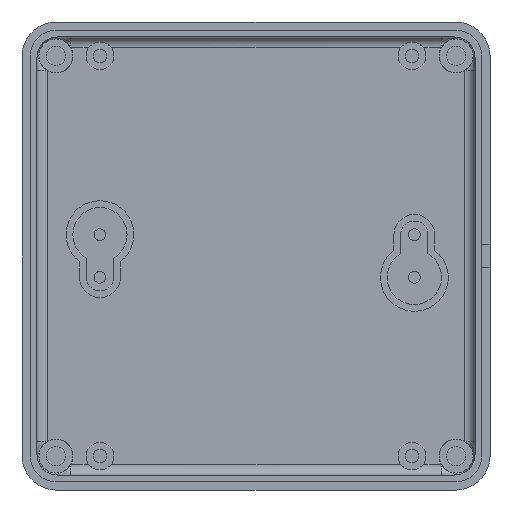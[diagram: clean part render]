
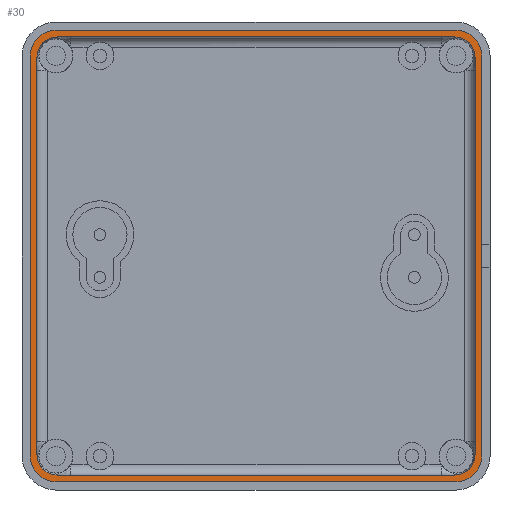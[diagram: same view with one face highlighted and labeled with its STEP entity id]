
A CAD part, front view. The second image highlights one B-rep face of the part: STEP entity #30.
In plain terms, the highlighted planar face has unit normal (0, -1, 0).
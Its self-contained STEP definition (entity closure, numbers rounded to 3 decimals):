
#23 = DIRECTION ( 'NONE',  ( 0., 0., -1. ) ) ;
#28 = EDGE_CURVE ( 'NONE', #1350, #135, #3203, .T. ) ;
#30 = ADVANCED_FACE ( 'NONE', ( #1282, #2259 ), #86, .T. ) ;
#37 = DIRECTION ( 'NONE',  ( 0., -1., 0. ) ) ;
#70 = CARTESIAN_POINT ( 'NONE',  ( -29.3, 0., 32.3 ) ) ;
#83 = ORIENTED_EDGE ( 'NONE', *, *, #3437, .T. ) ;
#86 = PLANE ( 'NONE',  #474 ) ;
#90 = DIRECTION ( 'NONE',  ( -1., 0., 0. ) ) ;
#115 = DIRECTION ( 'NONE',  ( 0., 0., 1. ) ) ;
#135 = VERTEX_POINT ( 'NONE', #3301 ) ;
#153 = EDGE_CURVE ( 'NONE', #2654, #2381, #4497, .T. ) ;
#163 = CARTESIAN_POINT ( 'NONE',  ( -29.5, 0., 29.5 ) ) ;
#251 = CARTESIAN_POINT ( 'NONE',  ( 32.3, 0., 29.3 ) ) ;
#254 = LINE ( 'NONE', #70, #3648 ) ;
#257 = AXIS2_PLACEMENT_3D ( 'NONE', #2780, #2423, #1700 ) ;
#268 = VERTEX_POINT ( 'NONE', #1545 ) ;
#301 = CARTESIAN_POINT ( 'NONE',  ( -32.3, 0., 29.3 ) ) ;
#333 = EDGE_CURVE ( 'NONE', #2762, #1350, #2200, .T. ) ;
#361 = DIRECTION ( 'NONE',  ( 0., 0., -1. ) ) ;
#392 = CARTESIAN_POINT ( 'NONE',  ( 29.3, 0., -29.3 ) ) ;
#434 = VECTOR ( 'NONE', #115, 1000. ) ;
#453 = ORIENTED_EDGE ( 'NONE', *, *, #28, .F. ) ;
#474 = AXIS2_PLACEMENT_3D ( 'NONE', #163, #37, #23 ) ;
#491 = AXIS2_PLACEMENT_3D ( 'NONE', #851, #839, #832 ) ;
#492 = EDGE_CURVE ( 'NONE', #4364, #4538, #2686, .T. ) ;
#593 = CARTESIAN_POINT ( 'NONE',  ( 33.3, 0., 29.45 ) ) ;
#613 = CARTESIAN_POINT ( 'NONE',  ( -29.45, 0., -33.3 ) ) ;
#784 = EDGE_CURVE ( 'NONE', #831, #2654, #3683, .T. ) ;
#831 = VERTEX_POINT ( 'NONE', #1554 ) ;
#832 = DIRECTION ( 'NONE',  ( 0., 0., -1. ) ) ;
#839 = DIRECTION ( 'NONE',  ( 0., -1., 0. ) ) ;
#851 = CARTESIAN_POINT ( 'NONE',  ( -29.45, 0., 29.45 ) ) ;
#923 = CARTESIAN_POINT ( 'NONE',  ( -29.3, 0., 32.3 ) ) ;
#945 = ORIENTED_EDGE ( 'NONE', *, *, #3295, .T. ) ;
#981 = CARTESIAN_POINT ( 'NONE',  ( 33.3, 0., -29.45 ) ) ;
#1051 = DIRECTION ( 'NONE',  ( 0., 0., -1. ) ) ;
#1061 = CARTESIAN_POINT ( 'NONE',  ( -29.3, 0., -29.3 ) ) ;
#1078 = DIRECTION ( 'NONE',  ( 0., -1., 0. ) ) ;
#1110 = DIRECTION ( 'NONE',  ( 0., 0., 1. ) ) ;
#1129 = AXIS2_PLACEMENT_3D ( 'NONE', #392, #1899, #361 ) ;
#1192 = EDGE_CURVE ( 'NONE', #135, #1648, #4011, .T. ) ;
#1200 = AXIS2_PLACEMENT_3D ( 'NONE', #1833, #1829, #1817 ) ;
#1282 = FACE_BOUND ( 'NONE', #4505, .T. ) ;
#1333 = LINE ( 'NONE', #2744, #3255 ) ;
#1350 = VERTEX_POINT ( 'NONE', #1570 ) ;
#1376 = CARTESIAN_POINT ( 'NONE',  ( -29.45, 0., 33.3 ) ) ;
#1474 = ORIENTED_EDGE ( 'NONE', *, *, #1526, .T. ) ;
#1487 = ORIENTED_EDGE ( 'NONE', *, *, #4567, .F. ) ;
#1526 = EDGE_CURVE ( 'NONE', #4284, #3924, #3510, .T. ) ;
#1545 = CARTESIAN_POINT ( 'NONE',  ( -29.3, 0., -32.3 ) ) ;
#1554 = CARTESIAN_POINT ( 'NONE',  ( -33.3, 0., -29.45 ) ) ;
#1570 = CARTESIAN_POINT ( 'NONE',  ( 32.3, 0., -29.3 ) ) ;
#1588 = ORIENTED_EDGE ( 'NONE', *, *, #784, .T. ) ;
#1589 = ORIENTED_EDGE ( 'NONE', *, *, #492, .F. ) ;
#1595 = VERTEX_POINT ( 'NONE', #3743 ) ;
#1648 = VERTEX_POINT ( 'NONE', #2459 ) ;
#1667 = LINE ( 'NONE', #3673, #4382 ) ;
#1700 = DIRECTION ( 'NONE',  ( 0., 0., -1. ) ) ;
#1723 = LINE ( 'NONE', #981, #4335 ) ;
#1817 = DIRECTION ( 'NONE',  ( 0., 0., -1. ) ) ;
#1829 = DIRECTION ( 'NONE',  ( 0., -1., 0. ) ) ;
#1833 = CARTESIAN_POINT ( 'NONE',  ( -29.45, 0., -29.45 ) ) ;
#1855 = VERTEX_POINT ( 'NONE', #2890 ) ;
#1865 = CARTESIAN_POINT ( 'NONE',  ( 33.3, 0., -29.45 ) ) ;
#1899 = DIRECTION ( 'NONE',  ( 0., -1., 0. ) ) ;
#1965 = VERTEX_POINT ( 'NONE', #1865 ) ;
#1974 = ORIENTED_EDGE ( 'NONE', *, *, #1192, .F. ) ;
#2128 = EDGE_CURVE ( 'NONE', #268, #2762, #4089, .T. ) ;
#2200 = CIRCLE ( 'NONE', #1129, 3. ) ;
#2243 = DIRECTION ( 'NONE',  ( 0., 0., -1. ) ) ;
#2250 = DIRECTION ( 'NONE',  ( 0., -1., 0. ) ) ;
#2259 = FACE_OUTER_BOUND ( 'NONE', #3921, .T. ) ;
#2279 = CARTESIAN_POINT ( 'NONE',  ( 29.45, 0., 29.45 ) ) ;
#2344 = EDGE_CURVE ( 'NONE', #3924, #831, #2529, .T. ) ;
#2381 = VERTEX_POINT ( 'NONE', #3645 ) ;
#2423 = DIRECTION ( 'NONE',  ( 0., -1., 0. ) ) ;
#2459 = CARTESIAN_POINT ( 'NONE',  ( 29.3, 0., 32.3 ) ) ;
#2486 = EDGE_CURVE ( 'NONE', #2655, #1855, #2924, .T. ) ;
#2529 = LINE ( 'NONE', #4144, #2640 ) ;
#2585 = AXIS2_PLACEMENT_3D ( 'NONE', #1061, #1078, #1051 ) ;
#2636 = VECTOR ( 'NONE', #3283, 1000. ) ;
#2640 = VECTOR ( 'NONE', #4265, 1000. ) ;
#2654 = VERTEX_POINT ( 'NONE', #613 ) ;
#2655 = VERTEX_POINT ( 'NONE', #593 ) ;
#2662 = ORIENTED_EDGE ( 'NONE', *, *, #2344, .T. ) ;
#2664 = ORIENTED_EDGE ( 'NONE', *, *, #2740, .F. ) ;
#2686 = CIRCLE ( 'NONE', #3549, 3. ) ;
#2740 = EDGE_CURVE ( 'NONE', #4538, #1595, #1667, .T. ) ;
#2744 = CARTESIAN_POINT ( 'NONE',  ( 29.45, 0., 33.3 ) ) ;
#2762 = VERTEX_POINT ( 'NONE', #2791 ) ;
#2780 = CARTESIAN_POINT ( 'NONE',  ( 29.45, 0., -29.45 ) ) ;
#2791 = CARTESIAN_POINT ( 'NONE',  ( 29.3, 0., -32.3 ) ) ;
#2866 = DIRECTION ( 'NONE',  ( 0., 0., -1. ) ) ;
#2890 = CARTESIAN_POINT ( 'NONE',  ( 29.45, 0., 33.3 ) ) ;
#2906 = CARTESIAN_POINT ( 'NONE',  ( -29.45, 0., -33.3 ) ) ;
#2924 = CIRCLE ( 'NONE', #3834, 3.85 ) ;
#2999 = ORIENTED_EDGE ( 'NONE', *, *, #333, .F. ) ;
#3083 = CIRCLE ( 'NONE', #257, 3.85 ) ;
#3111 = EDGE_CURVE ( 'NONE', #1855, #4284, #1333, .T. ) ;
#3130 = CARTESIAN_POINT ( 'NONE',  ( -33.3, 0., 29.45 ) ) ;
#3175 = VECTOR ( 'NONE', #3951, 1000. ) ;
#3203 = LINE ( 'NONE', #251, #434 ) ;
#3255 = VECTOR ( 'NONE', #4160, 1000. ) ;
#3283 = DIRECTION ( 'NONE',  ( 1., 0., 0. ) ) ;
#3295 = EDGE_CURVE ( 'NONE', #1965, #2655, #1723, .T. ) ;
#3301 = CARTESIAN_POINT ( 'NONE',  ( 32.3, 0., 29.3 ) ) ;
#3353 = CIRCLE ( 'NONE', #2585, 3. ) ;
#3437 = EDGE_CURVE ( 'NONE', #2381, #1965, #3083, .T. ) ;
#3489 = ORIENTED_EDGE ( 'NONE', *, *, #3111, .T. ) ;
#3503 = DIRECTION ( 'NONE',  ( 0., -1., 0. ) ) ;
#3510 = CIRCLE ( 'NONE', #491, 3.85 ) ;
#3517 = DIRECTION ( 'NONE',  ( 0., 0., -1. ) ) ;
#3549 = AXIS2_PLACEMENT_3D ( 'NONE', #3986, #3979, #3976 ) ;
#3584 = CARTESIAN_POINT ( 'NONE',  ( 29.3, 0., 29.3 ) ) ;
#3617 = EDGE_CURVE ( 'NONE', #1595, #268, #3353, .T. ) ;
#3645 = CARTESIAN_POINT ( 'NONE',  ( 29.45, 0., -33.3 ) ) ;
#3648 = VECTOR ( 'NONE', #90, 1000. ) ;
#3673 = CARTESIAN_POINT ( 'NONE',  ( -32.3, 0., -29.3 ) ) ;
#3683 = CIRCLE ( 'NONE', #1200, 3.85 ) ;
#3702 = ORIENTED_EDGE ( 'NONE', *, *, #2486, .T. ) ;
#3713 = ORIENTED_EDGE ( 'NONE', *, *, #3617, .F. ) ;
#3736 = AXIS2_PLACEMENT_3D ( 'NONE', #3584, #3503, #3517 ) ;
#3743 = CARTESIAN_POINT ( 'NONE',  ( -32.3, 0., -29.3 ) ) ;
#3834 = AXIS2_PLACEMENT_3D ( 'NONE', #2279, #2250, #2243 ) ;
#3919 = ORIENTED_EDGE ( 'NONE', *, *, #153, .T. ) ;
#3921 = EDGE_LOOP ( 'NONE', ( #2662, #1588, #3919, #83, #945, #3702, #3489, #1474 ) ) ;
#3924 = VERTEX_POINT ( 'NONE', #3130 ) ;
#3951 = DIRECTION ( 'NONE',  ( 1., 0., 0. ) ) ;
#3955 = CARTESIAN_POINT ( 'NONE',  ( 29.3, 0., -32.3 ) ) ;
#3976 = DIRECTION ( 'NONE',  ( 0., 0., -1. ) ) ;
#3979 = DIRECTION ( 'NONE',  ( 0., -1., 0. ) ) ;
#3986 = CARTESIAN_POINT ( 'NONE',  ( -29.3, 0., 29.3 ) ) ;
#4011 = CIRCLE ( 'NONE', #3736, 3. ) ;
#4089 = LINE ( 'NONE', #3955, #3175 ) ;
#4144 = CARTESIAN_POINT ( 'NONE',  ( -33.3, 0., 29.45 ) ) ;
#4160 = DIRECTION ( 'NONE',  ( -1., 0., 0. ) ) ;
#4265 = DIRECTION ( 'NONE',  ( 0., 0., -1. ) ) ;
#4284 = VERTEX_POINT ( 'NONE', #1376 ) ;
#4335 = VECTOR ( 'NONE', #1110, 1000. ) ;
#4364 = VERTEX_POINT ( 'NONE', #923 ) ;
#4382 = VECTOR ( 'NONE', #2866, 1000. ) ;
#4497 = LINE ( 'NONE', #2906, #2636 ) ;
#4505 = EDGE_LOOP ( 'NONE', ( #3713, #2664, #1589, #1487, #1974, #453, #2999, #4636 ) ) ;
#4538 = VERTEX_POINT ( 'NONE', #301 ) ;
#4567 = EDGE_CURVE ( 'NONE', #1648, #4364, #254, .T. ) ;
#4636 = ORIENTED_EDGE ( 'NONE', *, *, #2128, .F. ) ;
